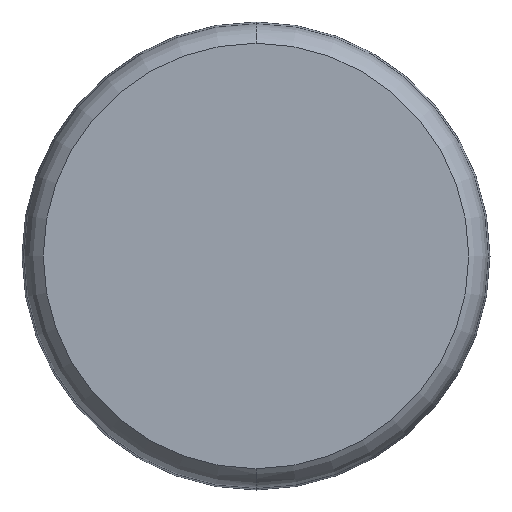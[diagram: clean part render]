
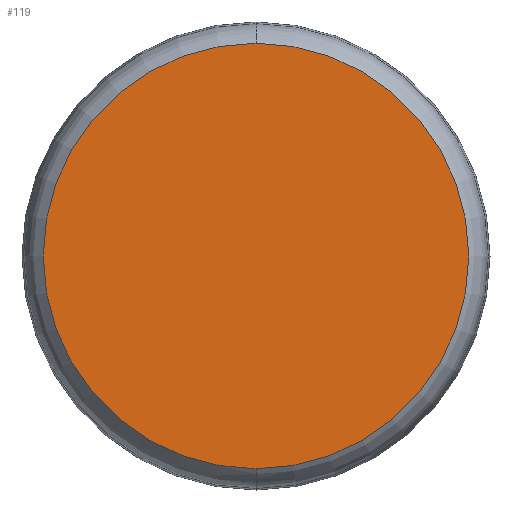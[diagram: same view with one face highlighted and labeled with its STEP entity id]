
A CAD part, front view. The second image highlights one B-rep face of the part: STEP entity #119.
In plain terms, the highlighted planar face has unit normal (0, -1, 0).
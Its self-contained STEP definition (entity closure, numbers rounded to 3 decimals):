
#32 = AXIS2_PLACEMENT_3D ( 'NONE', #260, #163, #377 ) ;
#67 = FACE_OUTER_BOUND ( 'NONE', #409, .T. ) ;
#73 = CIRCLE ( 'NONE', #226, 29.991 ) ;
#89 = VERTEX_POINT ( 'NONE', #284 ) ;
#100 = DIRECTION ( 'NONE',  ( 0., 0., 1. ) ) ;
#119 = ADVANCED_FACE ( 'NONE', ( #67 ), #213, .F. ) ;
#146 = DIRECTION ( 'NONE',  ( 0., 1., 0. ) ) ;
#159 = CARTESIAN_POINT ( 'NONE',  ( 0., 90., 29.991 ) ) ;
#163 = DIRECTION ( 'NONE',  ( 0., 1., 0. ) ) ;
#209 = DIRECTION ( 'NONE',  ( 0., 1., 0. ) ) ;
#213 = PLANE ( 'NONE',  #369 ) ;
#226 = AXIS2_PLACEMENT_3D ( 'NONE', #257, #146, #289 ) ;
#247 = EDGE_CURVE ( 'NONE', #315, #89, #73, .T. ) ;
#257 = CARTESIAN_POINT ( 'NONE',  ( 0., 90., 0. ) ) ;
#260 = CARTESIAN_POINT ( 'NONE',  ( 0., 90., 0. ) ) ;
#284 = CARTESIAN_POINT ( 'NONE',  ( 0., 90., -29.991 ) ) ;
#289 = DIRECTION ( 'NONE',  ( 0., 0., 1. ) ) ;
#298 = ORIENTED_EDGE ( 'NONE', *, *, #247, .F. ) ;
#302 = EDGE_CURVE ( 'NONE', #89, #315, #342, .T. ) ;
#310 = ORIENTED_EDGE ( 'NONE', *, *, #302, .F. ) ;
#315 = VERTEX_POINT ( 'NONE', #159 ) ;
#342 = CIRCLE ( 'NONE', #32, 29.991 ) ;
#369 = AXIS2_PLACEMENT_3D ( 'NONE', #427, #209, #100 ) ;
#377 = DIRECTION ( 'NONE',  ( 0., 0., 1. ) ) ;
#409 = EDGE_LOOP ( 'NONE', ( #298, #310 ) ) ;
#427 = CARTESIAN_POINT ( 'NONE',  ( 0., 90., 0. ) ) ;
